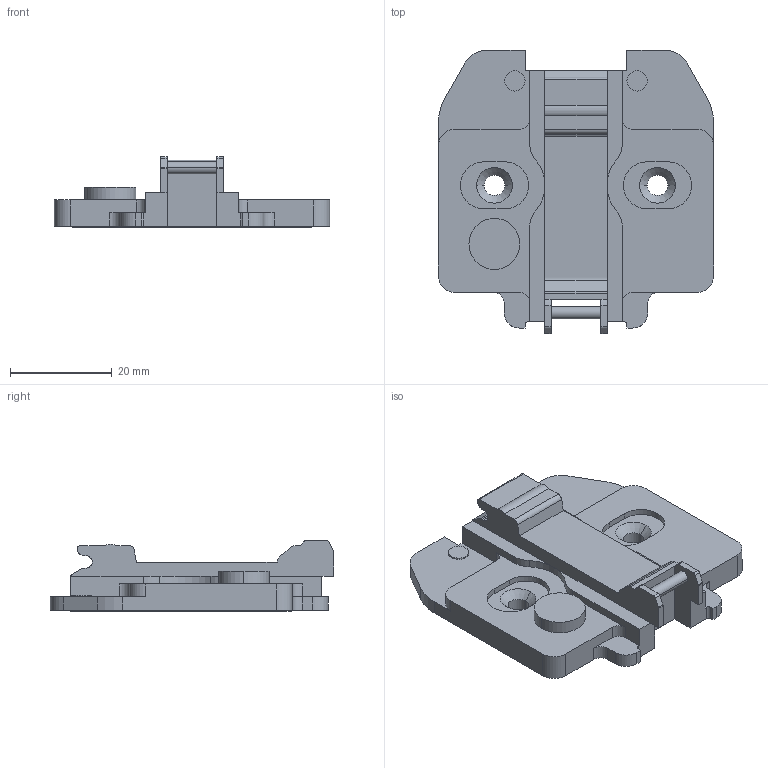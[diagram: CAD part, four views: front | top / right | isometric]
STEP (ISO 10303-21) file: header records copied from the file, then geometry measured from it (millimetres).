
FILE_DESCRIPTION (( 'STEP AP203' ), '1' );
FILE_NAME ('81T40TQ.STEP', '2020-02-12T06:08:45', ( 'Windows 蚚誧' ), ( '' ), 'SwSTEP 2.0', 'SolidWorks 2012', '' );
FILE_SCHEMA (( 'CONFIG_CONTROL_DESIGN' ));
Length unit declared in the file: millimetre
Products named in the file (1): 81T40TQ
Bounding box: 54 x 55.62 x 13.9 mm (x, y, z)
Volume: 15233.4 mm3; surface area: 7449 mm2
Topology: 1 solids, 1 shells, 148 faces, 409 edges, 270 vertices
Faces by surface type: plane 82, cylinder 62, cone 4
Entity records: 4828 total; most frequent: DIRECTION 837, CARTESIAN_POINT 828, ORIENTED_EDGE 818, EDGE_CURVE 409, LINE 279, VECTOR 279, AXIS2_PLACEMENT_3D 279, VERTEX_POINT 270
